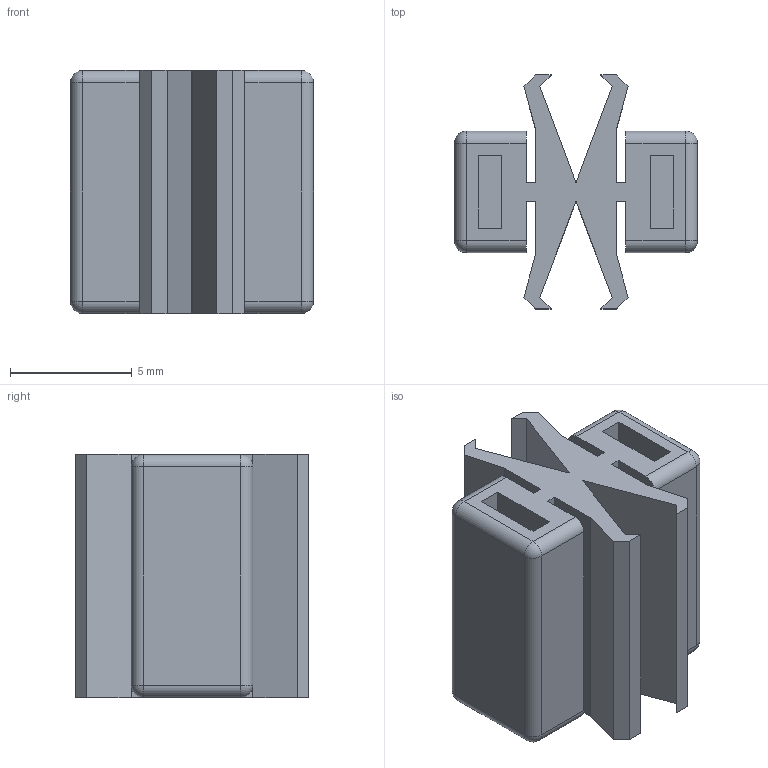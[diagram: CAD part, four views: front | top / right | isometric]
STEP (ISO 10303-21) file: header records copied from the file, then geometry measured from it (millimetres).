
FILE_DESCRIPTION(/* description */ (''),/* implementation_level */ '2;1');
FILE_NAME(/* name */ 'C:/Users/priba/Downloads/Brick1x1x0.5mm.step',/* time_stamp */ '2022-04-03T10:38:37+02:00',/* author */ (''),/* organization */ (''),/* preprocessor_version */ 'ST-DEVELOPER v18.1',/* originating_system */ 'Autodesk Translation Framework v10.13.0.1454',/* authorisation */ '');
FILE_SCHEMA (('AUTOMOTIVE_DESIGN { 1 0 10303 214 3 1 1 }'));
Length unit declared in the file: millimetre
Products named in the file (1): Brick1x1x0.5mm
Bounding box: 10 x 9.61 x 10 mm (x, y, z)
Volume: 444.2 mm3; surface area: 949.1 mm2
Topology: 1 solids, 1 shells, 76 faces, 192 edges, 120 vertices
Faces by surface type: plane 52, cylinder 16, sphere 8
Entity records: 2258 total; most frequent: CARTESIAN_POINT 389, ORIENTED_EDGE 384, DIRECTION 378, EDGE_CURVE 192, LINE 160, VECTOR 160, VERTEX_POINT 120, AXIS2_PLACEMENT_3D 109
